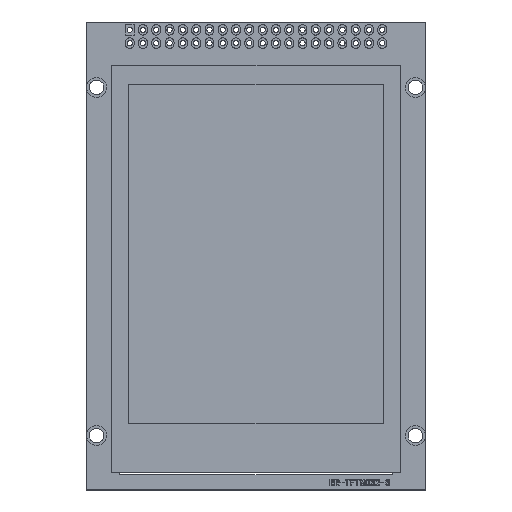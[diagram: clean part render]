
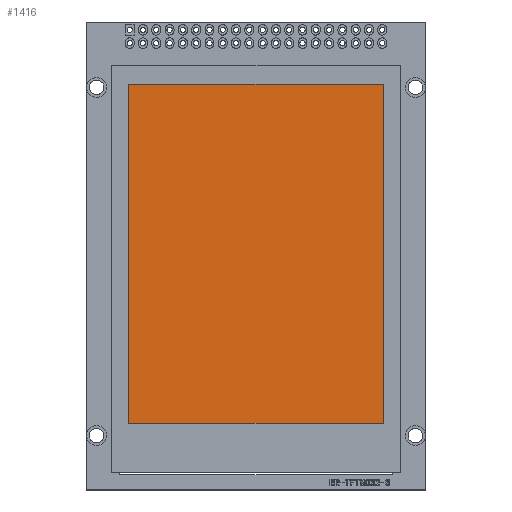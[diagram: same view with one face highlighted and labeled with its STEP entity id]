
A CAD part, top view. The second image highlights one B-rep face of the part: STEP entity #1416.
In plain terms, the highlighted free-form (B-spline) face has degree [1, 1] with [2, 2] control points.
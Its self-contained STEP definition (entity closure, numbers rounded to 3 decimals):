
#108=(GEOMETRIC_REPRESENTATION_CONTEXT(2)PARAMETRIC_REPRESENTATION_CONTEXT()REPRESENTATION_CONTEXT('',''));
#1156=CARTESIAN_POINT('',(56.75,12.7,0.8));
#1157=CARTESIAN_POINT('',(56.75,77.5,0.8));
#1158=CARTESIAN_POINT('',(56.75,12.7,3.45));
#1159=CARTESIAN_POINT('',(56.75,77.5,3.45));
#1160=B_SPLINE_SURFACE_WITH_KNOTS('',1,1,((#1156,#1157),(#1158,#1159)),.UNSPECIFIED.,.F.,.F.,.U.,(2,2),(2,2),(-0.003,0.),(0.013,0.078),.UNSPECIFIED.);
#1186=CARTESIAN_POINT('',(56.75,77.5,3.45));
#1187=VERTEX_POINT('',#1186);
#1188=CARTESIAN_POINT('',(8.15,77.5,3.45));
#1189=CARTESIAN_POINT('',(56.75,77.5,3.45));
#1190=CARTESIAN_POINT('',(8.15,77.5,0.8));
#1191=CARTESIAN_POINT('',(56.75,77.5,0.8));
#1192=B_SPLINE_SURFACE_WITH_KNOTS('',1,1,((#1188,#1189),(#1190,#1191)),.UNSPECIFIED.,.F.,.F.,.U.,(2,2),(2,2),(0.,0.003),(0.008,0.057),.UNSPECIFIED.);
#1209=CARTESIAN_POINT('',(56.75,12.7,3.45));
#1210=VERTEX_POINT('',#1209);
#1211=CARTESIAN_POINT('',(8.15,12.7,3.45));
#1212=CARTESIAN_POINT('',(8.15,77.5,3.45));
#1213=CARTESIAN_POINT('',(56.75,12.7,3.45));
#1214=CARTESIAN_POINT('',(56.75,77.5,3.45));
#1215=B_SPLINE_SURFACE_WITH_KNOTS('',1,1,((#1211,#1212),(#1213,#1214)),.UNSPECIFIED.,.F.,.F.,.U.,(2,2),(2,2),(0.008,0.057),(0.013,0.078),.UNSPECIFIED.);
#1216=CARTESIAN_POINT('',(0.,0.013));
#1217=CARTESIAN_POINT('',(0.,0.078));
#1218=B_SPLINE_CURVE_WITH_KNOTS('',1,(#1216,#1217),.UNSPECIFIED.,.F.,.F.,(2,2),(0.013,0.078),.UNSPECIFIED.);
#1219=DEFINITIONAL_REPRESENTATION('',(#1218),#108);
#1220=PCURVE('',#1160,#1219);
#1221=CARTESIAN_POINT('',(0.057,0.013));
#1222=CARTESIAN_POINT('',(0.057,0.078));
#1223=B_SPLINE_CURVE_WITH_KNOTS('',1,(#1221,#1222),.UNSPECIFIED.,.F.,.F.,(2,2),(0.013,0.078),.UNSPECIFIED.);
#1224=DEFINITIONAL_REPRESENTATION('',(#1223),#108);
#1225=PCURVE('',#1215,#1224);
#1226=CARTESIAN_POINT('',(56.75,12.7,3.45));
#1227=CARTESIAN_POINT('',(56.75,77.5,3.45));
#1228=B_SPLINE_CURVE_WITH_KNOTS('',1,(#1226,#1227),.UNSPECIFIED.,.F.,.F.,(2,2),(0.013,0.078),.UNSPECIFIED.);
#1229=INTERSECTION_CURVE('',#1228,(#1220,#1225),.PCURVE_S1.);
#1230=EDGE_CURVE('',#1210,#1187,#1229,.T.);
#1232=CARTESIAN_POINT('',(8.15,12.7,0.8));
#1233=CARTESIAN_POINT('',(56.75,12.7,0.8));
#1234=CARTESIAN_POINT('',(8.15,12.7,3.45));
#1235=CARTESIAN_POINT('',(56.75,12.7,3.45));
#1236=B_SPLINE_SURFACE_WITH_KNOTS('',1,1,((#1232,#1233),(#1234,#1235)),.UNSPECIFIED.,.F.,.F.,.U.,(2,2),(2,2),(-0.003,0.),(0.008,0.057),.UNSPECIFIED.);
#1274=CARTESIAN_POINT('',(8.15,77.5,3.45));
#1275=VERTEX_POINT('',#1274);
#1276=CARTESIAN_POINT('',(8.15,12.7,3.45));
#1277=CARTESIAN_POINT('',(8.15,77.5,3.45));
#1278=CARTESIAN_POINT('',(8.15,12.7,0.8));
#1279=CARTESIAN_POINT('',(8.15,77.5,0.8));
#1280=B_SPLINE_SURFACE_WITH_KNOTS('',1,1,((#1276,#1277),(#1278,#1279)),.UNSPECIFIED.,.F.,.F.,.U.,(2,2),(2,2),(0.,0.003),(0.013,0.078),.UNSPECIFIED.);
#1297=CARTESIAN_POINT('',(0.,0.057));
#1298=CARTESIAN_POINT('',(0.,0.008));
#1299=B_SPLINE_CURVE_WITH_KNOTS('',1,(#1297,#1298),.UNSPECIFIED.,.F.,.F.,(2,2),(-0.057,-0.008),.UNSPECIFIED.);
#1300=DEFINITIONAL_REPRESENTATION('',(#1299),#108);
#1301=PCURVE('',#1192,#1300);
#1302=CARTESIAN_POINT('',(0.057,0.078));
#1303=CARTESIAN_POINT('',(0.008,0.078));
#1304=B_SPLINE_CURVE_WITH_KNOTS('',1,(#1302,#1303),.UNSPECIFIED.,.F.,.F.,(2,2),(-0.057,-0.008),.UNSPECIFIED.);
#1305=DEFINITIONAL_REPRESENTATION('',(#1304),#108);
#1306=PCURVE('',#1215,#1305);
#1307=CARTESIAN_POINT('',(56.75,77.5,3.45));
#1308=CARTESIAN_POINT('',(8.15,77.5,3.45));
#1309=B_SPLINE_CURVE_WITH_KNOTS('',1,(#1307,#1308),.UNSPECIFIED.,.F.,.F.,(2,2),(-0.057,-0.008),.UNSPECIFIED.);
#1310=INTERSECTION_CURVE('',#1309,(#1301,#1306),.PCURVE_S1.);
#1311=EDGE_CURVE('',#1187,#1275,#1310,.T.);
#1335=CARTESIAN_POINT('',(8.15,12.7,3.45));
#1336=VERTEX_POINT('',#1335);
#1353=CARTESIAN_POINT('',(0.,0.078));
#1354=CARTESIAN_POINT('',(0.,0.013));
#1355=B_SPLINE_CURVE_WITH_KNOTS('',1,(#1353,#1354),.UNSPECIFIED.,.F.,.F.,(2,2),(-0.078,-0.013),.UNSPECIFIED.);
#1356=DEFINITIONAL_REPRESENTATION('',(#1355),#108);
#1357=PCURVE('',#1280,#1356);
#1358=CARTESIAN_POINT('',(0.008,0.078));
#1359=CARTESIAN_POINT('',(0.008,0.013));
#1360=B_SPLINE_CURVE_WITH_KNOTS('',1,(#1358,#1359),.UNSPECIFIED.,.F.,.F.,(2,2),(-0.078,-0.013),.UNSPECIFIED.);
#1361=DEFINITIONAL_REPRESENTATION('',(#1360),#108);
#1362=PCURVE('',#1215,#1361);
#1363=CARTESIAN_POINT('',(8.15,77.5,3.45));
#1364=CARTESIAN_POINT('',(8.15,12.7,3.45));
#1365=B_SPLINE_CURVE_WITH_KNOTS('',1,(#1363,#1364),.UNSPECIFIED.,.F.,.F.,(2,2),(-0.078,-0.013),.UNSPECIFIED.);
#1366=INTERSECTION_CURVE('',#1365,(#1357,#1362),.PCURVE_S1.);
#1367=EDGE_CURVE('',#1275,#1336,#1366,.T.);
#1390=CARTESIAN_POINT('',(0.,0.008));
#1391=CARTESIAN_POINT('',(0.,0.057));
#1392=B_SPLINE_CURVE_WITH_KNOTS('',1,(#1390,#1391),.UNSPECIFIED.,.F.,.F.,(2,2),(0.008,0.057),.UNSPECIFIED.);
#1393=DEFINITIONAL_REPRESENTATION('',(#1392),#108);
#1394=PCURVE('',#1236,#1393);
#1395=CARTESIAN_POINT('',(0.008,0.013));
#1396=CARTESIAN_POINT('',(0.057,0.013));
#1397=B_SPLINE_CURVE_WITH_KNOTS('',1,(#1395,#1396),.UNSPECIFIED.,.F.,.F.,(2,2),(0.008,0.057),.UNSPECIFIED.);
#1398=DEFINITIONAL_REPRESENTATION('',(#1397),#108);
#1399=PCURVE('',#1215,#1398);
#1400=CARTESIAN_POINT('',(8.15,12.7,3.45));
#1401=CARTESIAN_POINT('',(56.75,12.7,3.45));
#1402=B_SPLINE_CURVE_WITH_KNOTS('',1,(#1400,#1401),.UNSPECIFIED.,.F.,.F.,(2,2),(0.008,0.057),.UNSPECIFIED.);
#1403=INTERSECTION_CURVE('',#1402,(#1394,#1399),.PCURVE_S1.);
#1404=EDGE_CURVE('',#1336,#1210,#1403,.T.);
#1410=ORIENTED_EDGE('',*,*,#1230,.T.);
#1411=ORIENTED_EDGE('',*,*,#1311,.T.);
#1412=ORIENTED_EDGE('',*,*,#1367,.T.);
#1413=ORIENTED_EDGE('',*,*,#1404,.T.);
#1414=EDGE_LOOP('',(#1410,#1411,#1412,#1413));
#1415=FACE_BOUND('',#1414,.T.);
#1416=ADVANCED_FACE('',(#1415),#1215,.T.);
